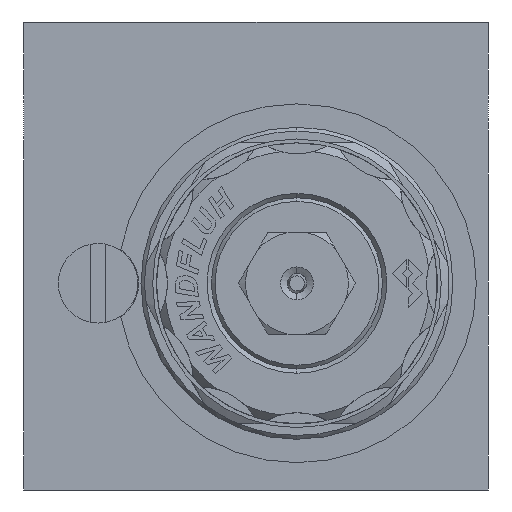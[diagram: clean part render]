
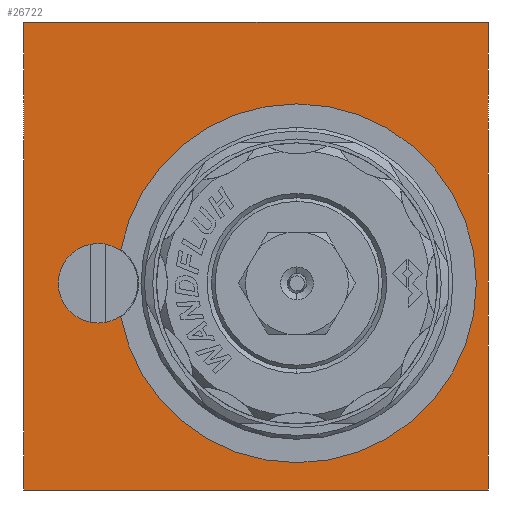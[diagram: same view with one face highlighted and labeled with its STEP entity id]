
A CAD part, left-side view. The second image highlights one B-rep face of the part: STEP entity #26722.
In plain terms, the highlighted planar face has unit normal (-1, 0, 0).
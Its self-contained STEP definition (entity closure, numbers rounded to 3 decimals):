
#186 = EDGE_CURVE ( 'NONE', #12680, #11832, #9034, .T. ) ;
#376 = CARTESIAN_POINT ( 'NONE',  ( 0., 20.25, 1.6 ) ) ;
#1027 = ORIENTED_EDGE ( 'NONE', *, *, #36272, .F. ) ;
#1119 = CARTESIAN_POINT ( 'NONE',  ( 0., 29.75, -30. ) ) ;
#2021 = AXIS2_PLACEMENT_3D ( 'NONE', #8964, #15921, #26088 ) ;
#2513 = EDGE_CURVE ( 'NONE', #25388, #41735, #41134, .T. ) ;
#3057 = ORIENTED_EDGE ( 'NONE', *, *, #2513, .F. ) ;
#3415 = DIRECTION ( 'NONE',  ( -1., 0., 0. ) ) ;
#4940 = ORIENTED_EDGE ( 'NONE', *, *, #16461, .F. ) ;
#5164 = DIRECTION ( 'NONE',  ( -1., 0., 0. ) ) ;
#6363 = LINE ( 'NONE', #10652, #23038 ) ;
#6591 = EDGE_CURVE ( 'NONE', #11832, #25388, #20576, .T. ) ;
#7053 = ORIENTED_EDGE ( 'NONE', *, *, #20129, .F. ) ;
#7482 = CARTESIAN_POINT ( 'NONE',  ( 0., 20.25, -3.5 ) ) ;
#7681 = DIRECTION ( 'NONE',  ( -1., 0., 0. ) ) ;
#7724 = DIRECTION ( 'NONE',  ( 0., 0., 1. ) ) ;
#8461 = AXIS2_PLACEMENT_3D ( 'NONE', #31542, #31349, #30764 ) ;
#8964 = CARTESIAN_POINT ( 'NONE',  ( 0., 29.75, -30. ) ) ;
#9034 = CIRCLE ( 'NONE', #35031, 5.1 ) ;
#9946 = ORIENTED_EDGE ( 'NONE', *, *, #6591, .F. ) ;
#10652 = CARTESIAN_POINT ( 'NONE',  ( 0., -29.75, 30. ) ) ;
#11779 = AXIS2_PLACEMENT_3D ( 'NONE', #25477, #5164, #28954 ) ;
#11832 = VERTEX_POINT ( 'NONE', #43818 ) ;
#11838 = DIRECTION ( 'NONE',  ( 0., -1., 0. ) ) ;
#11885 = CARTESIAN_POINT ( 'NONE',  ( 0., -5.25, -3.5 ) ) ;
#11945 = VERTEX_POINT ( 'NONE', #36697 ) ;
#11974 = DIRECTION ( 'NONE',  ( -1., 0., 0. ) ) ;
#12129 = DIRECTION ( 'NONE',  ( 0., 0., 1. ) ) ;
#12680 = VERTEX_POINT ( 'NONE', #376 ) ;
#12886 = CARTESIAN_POINT ( 'NONE',  ( 0., -29.75, 30. ) ) ;
#12911 = EDGE_CURVE ( 'NONE', #13187, #33765, #6363, .T. ) ;
#13187 = VERTEX_POINT ( 'NONE', #17957 ) ;
#14375 = EDGE_CURVE ( 'NONE', #26496, #43366, #31521, .T. ) ;
#15921 = DIRECTION ( 'NONE',  ( -1., 0., 0. ) ) ;
#16400 = EDGE_CURVE ( 'NONE', #43366, #13187, #22556, .T. ) ;
#16461 = EDGE_CURVE ( 'NONE', #41735, #11945, #21791, .T. ) ;
#16945 = DIRECTION ( 'NONE',  ( 0., 1., 0. ) ) ;
#17274 = CARTESIAN_POINT ( 'NONE',  ( 0., 17.363, -7.704 ) ) ;
#17818 = EDGE_CURVE ( 'NONE', #33765, #26496, #29498, .T. ) ;
#17957 = CARTESIAN_POINT ( 'NONE',  ( 0., 29.75, 30. ) ) ;
#18054 = CARTESIAN_POINT ( 'NONE',  ( 0., -29.75, -30. ) ) ;
#18750 = PLANE ( 'NONE',  #2021 ) ;
#18935 = CARTESIAN_POINT ( 'NONE',  ( 0., -5.25, -26.5 ) ) ;
#19520 = CIRCLE ( 'NONE', #32811, 5.1 ) ;
#19762 = DIRECTION ( 'NONE',  ( 0., 0., 1. ) ) ;
#19768 = DIRECTION ( 'NONE',  ( -1., 0., 0. ) ) ;
#19903 = ORIENTED_EDGE ( 'NONE', *, *, #16400, .F. ) ;
#19913 = CARTESIAN_POINT ( 'NONE',  ( 0., -5.25, -3.5 ) ) ;
#20129 = EDGE_CURVE ( 'NONE', #38554, #12680, #19520, .T. ) ;
#20576 = CIRCLE ( 'NONE', #8461, 5.1 ) ;
#20629 = ORIENTED_EDGE ( 'NONE', *, *, #12911, .F. ) ;
#21717 = DIRECTION ( 'NONE',  ( 0., 0., 1. ) ) ;
#21785 = CARTESIAN_POINT ( 'NONE',  ( 0., 29.75, 30. ) ) ;
#21791 = CIRCLE ( 'NONE', #25799, 23. ) ;
#22556 = LINE ( 'NONE', #21785, #22765 ) ;
#22765 = VECTOR ( 'NONE', #21717, 1000. ) ;
#23038 = VECTOR ( 'NONE', #11838, 1000. ) ;
#23686 = DIRECTION ( 'NONE',  ( 0., 0., 1. ) ) ;
#25067 = FACE_BOUND ( 'NONE', #29829, .T. ) ;
#25388 = VERTEX_POINT ( 'NONE', #17274 ) ;
#25477 = CARTESIAN_POINT ( 'NONE',  ( 0., -5.25, -3.5 ) ) ;
#25799 = AXIS2_PLACEMENT_3D ( 'NONE', #19913, #19768, #19762 ) ;
#26088 = DIRECTION ( 'NONE',  ( 0., 0., 1. ) ) ;
#26496 = VERTEX_POINT ( 'NONE', #42584 ) ;
#26722 = ADVANCED_FACE ( 'NONE', ( #25067, #33115 ), #18750, .T. ) ;
#27032 = ORIENTED_EDGE ( 'NONE', *, *, #186, .F. ) ;
#27157 = CARTESIAN_POINT ( 'NONE',  ( 0., 20.25, -3.5 ) ) ;
#27479 = CARTESIAN_POINT ( 'NONE',  ( 0., 17.363, 0.704 ) ) ;
#27968 = DIRECTION ( 'NONE',  ( 0., 0., -1. ) ) ;
#28216 = CARTESIAN_POINT ( 'NONE',  ( 0., -29.75, 30. ) ) ;
#28954 = DIRECTION ( 'NONE',  ( 0., 0., 1. ) ) ;
#29498 = LINE ( 'NONE', #28216, #29865 ) ;
#29829 = EDGE_LOOP ( 'NONE', ( #7053, #1027, #4940, #3057, #9946, #27032 ) ) ;
#29865 = VECTOR ( 'NONE', #27968, 1000. ) ;
#30764 = DIRECTION ( 'NONE',  ( 0., 0., 1. ) ) ;
#31349 = DIRECTION ( 'NONE',  ( -1., 0., 0. ) ) ;
#31521 = LINE ( 'NONE', #18054, #31567 ) ;
#31542 = CARTESIAN_POINT ( 'NONE',  ( 0., 20.25, -3.5 ) ) ;
#31567 = VECTOR ( 'NONE', #16945, 1000. ) ;
#32811 = AXIS2_PLACEMENT_3D ( 'NONE', #27157, #3415, #23686 ) ;
#33115 = FACE_OUTER_BOUND ( 'NONE', #33850, .T. ) ;
#33765 = VERTEX_POINT ( 'NONE', #12886 ) ;
#33850 = EDGE_LOOP ( 'NONE', ( #39469, #42838, #20629, #19903 ) ) ;
#34556 = AXIS2_PLACEMENT_3D ( 'NONE', #11885, #11974, #12129 ) ;
#35031 = AXIS2_PLACEMENT_3D ( 'NONE', #7482, #7681, #7724 ) ;
#36272 = EDGE_CURVE ( 'NONE', #11945, #38554, #41689, .T. ) ;
#36697 = CARTESIAN_POINT ( 'NONE',  ( 0., -5.25, 19.5 ) ) ;
#38554 = VERTEX_POINT ( 'NONE', #27479 ) ;
#39469 = ORIENTED_EDGE ( 'NONE', *, *, #14375, .F. ) ;
#41134 = CIRCLE ( 'NONE', #34556, 23. ) ;
#41689 = CIRCLE ( 'NONE', #11779, 23. ) ;
#41735 = VERTEX_POINT ( 'NONE', #18935 ) ;
#42584 = CARTESIAN_POINT ( 'NONE',  ( 0., -29.75, -30. ) ) ;
#42838 = ORIENTED_EDGE ( 'NONE', *, *, #17818, .F. ) ;
#43366 = VERTEX_POINT ( 'NONE', #1119 ) ;
#43818 = CARTESIAN_POINT ( 'NONE',  ( 0., 20.25, -8.6 ) ) ;
